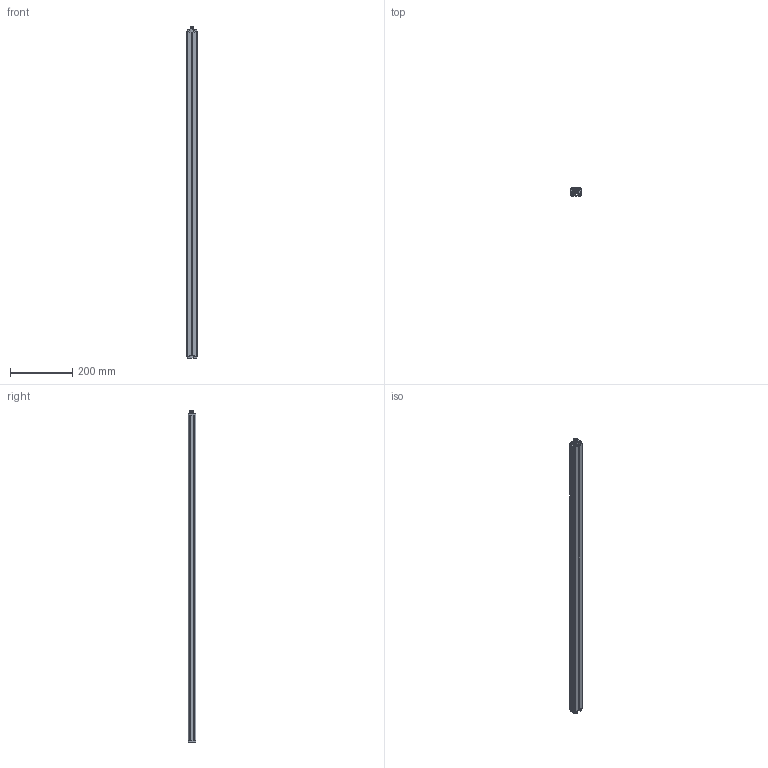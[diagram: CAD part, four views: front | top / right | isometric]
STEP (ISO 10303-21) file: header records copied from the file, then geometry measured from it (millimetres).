
FILE_DESCRIPTION((''),'2;1');
FILE_NAME('C:\TurckZip\Li1000-Q25L-H1.stp','2010-05-06T13:53:30',('IKOROL'),(''),'Autodesk Inventor 2009','Autodesk Inventor 2009','');
FILE_SCHEMA(('CONFIG_CONTROL_DESIGN'));
Length unit declared in the file: millimetre
Products named in the file (1): Part23
Bounding box: 35 x 25 x 1068.5 mm (x, y, z)
Volume: 821056.4 mm3; surface area: 169820.2 mm2
Topology: 3 solids, 8 shells, 347 faces, 831 edges, 536 vertices
Faces by surface type: plane 184, cylinder 102, cone 39, torus 15, bspline 7
Full cylindrical faces by diameter (mm): 0.8 x2, 0.9 x1, 1 x10, 1.2 x1, 1.5 x1, 2 x1, 2.9 x6, 4.2 x8, 4.9 x8, 5.152 x2, 5.2 x8, 8 x1, 8.3 x1, 9.6 x1, 9.9 x1, 10 x1, 10.5 x1, 10.982 x1, 16 x1
Entity records: 10430 total; most frequent: CARTESIAN_POINT 2366, DIRECTION 1600, ORIENTED_EDGE 1408, EDGE_CURVE 704, AXIS2_PLACEMENT_3D 602, VERTEX_POINT 520, EDGE_LOOP 514, VECTOR 396
